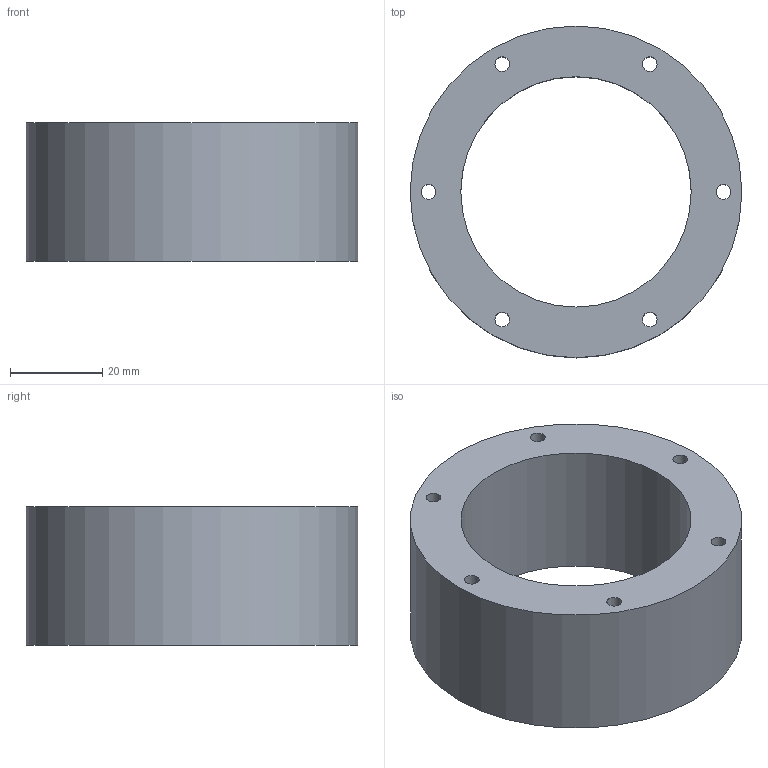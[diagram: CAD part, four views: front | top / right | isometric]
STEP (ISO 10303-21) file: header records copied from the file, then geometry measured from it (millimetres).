
FILE_DESCRIPTION(('Open CASCADE Model'),'2;1');
FILE_NAME('Open CASCADE Shape Model','2026-11-05T02:23:55',('Author'),( 'Open CASCADE'),'Open CASCADE STEP processor 7.8','Open CASCADE 7.8' ,'Unknown');
FILE_SCHEMA(('AUTOMOTIVE_DESIGN { 1 0 10303 214 1 1 1 1 }'));
Length unit declared in the file: millimetre
Products named in the file (1): Open CASCADE STEP translator 7.8 13
Bounding box: 72 x 72 x 30 mm (x, y, z)
Volume: 61792.6 mm3; surface area: 17427.3 mm2
Topology: 1 solids, 1 shells, 10 faces, 24 edges, 16 vertices
Faces by surface type: cylinder 8, plane 2
Full cylindrical faces by diameter (mm): 3.2 x6, 50 x1, 72 x1
Entity records: 660 total; most frequent: CARTESIAN_POINT 111, DIRECTION 108, ORIENTED_EDGE 48, PCURVE 48, DEFINITIONAL_REPRESENTATION 48, LINE 40, VECTOR 40, CIRCLE 30
